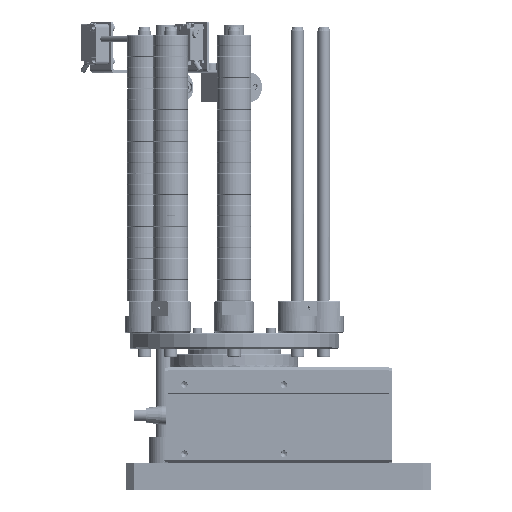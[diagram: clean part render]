
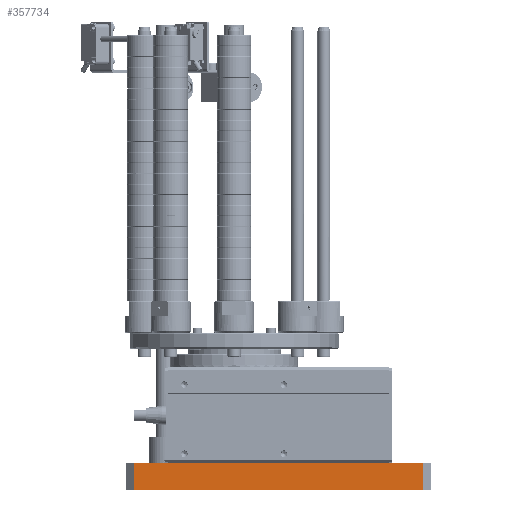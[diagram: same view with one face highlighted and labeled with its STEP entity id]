
A CAD part, top view. The second image highlights one B-rep face of the part: STEP entity #357734.
In plain terms, the highlighted planar face has unit normal (0, 0, 1).
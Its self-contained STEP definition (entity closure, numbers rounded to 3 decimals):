
#99 = PLANE ( 'NONE',  #288197 ) ;
#2862 = DIRECTION ( 'NONE',  ( 1., 0., 0. ) ) ;
#14838 = DIRECTION ( 'NONE',  ( 0., -1., 0. ) ) ;
#15795 = ORIENTED_EDGE ( 'NONE', *, *, #480145, .T. ) ;
#30261 = FACE_OUTER_BOUND ( 'NONE', #152850, .T. ) ;
#65537 = EDGE_CURVE ( 'NONE', #394857, #438973, #222427, .T. ) ;
#115623 = ORIENTED_EDGE ( 'NONE', *, *, #246966, .T. ) ;
#125753 = CARTESIAN_POINT ( 'NONE',  ( 148.5, -36., 60. ) ) ;
#138299 = CARTESIAN_POINT ( 'NONE',  ( 142.5, -56., 60. ) ) ;
#138454 = CARTESIAN_POINT ( 'NONE',  ( 142.5, -36., 60. ) ) ;
#152850 = EDGE_LOOP ( 'NONE', ( #480432, #160888, #115623, #15795 ) ) ;
#160888 = ORIENTED_EDGE ( 'NONE', *, *, #65537, .T. ) ;
#162425 = VERTEX_POINT ( 'NONE', #138454 ) ;
#195083 = CARTESIAN_POINT ( 'NONE',  ( 148.5, -56., 60. ) ) ;
#222427 = LINE ( 'NONE', #389263, #249241 ) ;
#233779 = DIRECTION ( 'NONE',  ( 0., 1., 0. ) ) ;
#240682 = VECTOR ( 'NONE', #361875, 1000. ) ;
#246966 = EDGE_CURVE ( 'NONE', #438973, #385603, #408305, .T. ) ;
#249241 = VECTOR ( 'NONE', #14838, 1000. ) ;
#284865 = VECTOR ( 'NONE', #2862, 1000. ) ;
#288197 = AXIS2_PLACEMENT_3D ( 'NONE', #382502, #418152, #538771 ) ;
#292197 = EDGE_CURVE ( 'NONE', #394857, #162425, #341512, .T. ) ;
#311248 = VECTOR ( 'NONE', #233779, 1000. ) ;
#341512 = LINE ( 'NONE', #125753, #284865 ) ;
#357734 = ADVANCED_FACE ( 'NONE', ( #30261 ), #99, .F. ) ;
#361875 = DIRECTION ( 'NONE',  ( 1., 0., 0. ) ) ;
#373002 = CARTESIAN_POINT ( 'NONE',  ( -75.5, -36., 60. ) ) ;
#382502 = CARTESIAN_POINT ( 'NONE',  ( 148.5, -36., 60. ) ) ;
#385603 = VERTEX_POINT ( 'NONE', #138299 ) ;
#389263 = CARTESIAN_POINT ( 'NONE',  ( -75.5, -36., 60. ) ) ;
#394857 = VERTEX_POINT ( 'NONE', #373002 ) ;
#408305 = LINE ( 'NONE', #195083, #240682 ) ;
#418152 = DIRECTION ( 'NONE',  ( 0., 0., -1. ) ) ;
#436260 = CARTESIAN_POINT ( 'NONE',  ( 142.5, -36., 60. ) ) ;
#438973 = VERTEX_POINT ( 'NONE', #505588 ) ;
#480145 = EDGE_CURVE ( 'NONE', #385603, #162425, #482647, .T. ) ;
#480432 = ORIENTED_EDGE ( 'NONE', *, *, #292197, .F. ) ;
#482647 = LINE ( 'NONE', #436260, #311248 ) ;
#505588 = CARTESIAN_POINT ( 'NONE',  ( -75.5, -56., 60. ) ) ;
#538771 = DIRECTION ( 'NONE',  ( -1., 0., 0. ) ) ;
